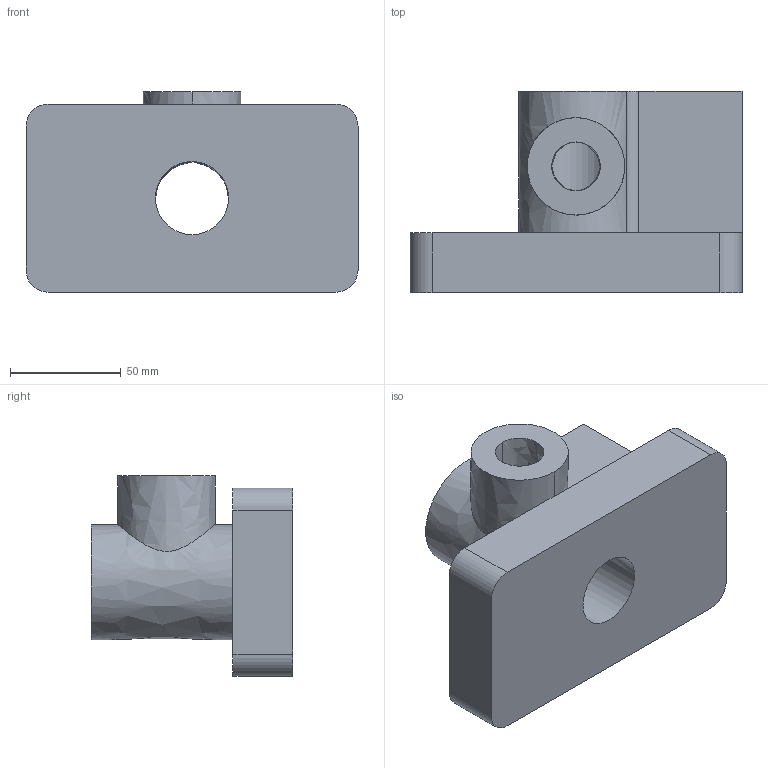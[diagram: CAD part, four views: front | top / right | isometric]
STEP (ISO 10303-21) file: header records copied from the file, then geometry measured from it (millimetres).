
FILE_DESCRIPTION((' '),'2;1');
FILE_NAME( '3X+2_02_Flange_Stock.STEP', '2022-03-10T14:19:29', (' '), ('--- Datakit www.datakit.com---'), ' Datakit CrossCadWare V2022.1 Dec 18 2021', 'GO2cam V6.09', ' ');
FILE_SCHEMA(('AUTOMOTIVE_DESIGN { 1 0 10303 214 1 1 1 1 }'));
Length unit declared in the file: millimetre
Products named in the file (1): part
Bounding box: 150 x 91 x 90.5 mm (x, y, z)
Volume: 483203.4 mm3; surface area: 67237.5 mm2
Topology: 1 solids, 1 shells, 24 faces, 63 edges, 42 vertices
Faces by surface type: bspline 14, plane 10
Entity records: 1309 total; most frequent: CARTESIAN_POINT 699, ORIENTED_EDGE 126, DIRECTION 100, EDGE_CURVE 63, VERTEX_POINT 42, VECTOR 34, LINE 34, AXIS2_PLACEMENT_3D 33
